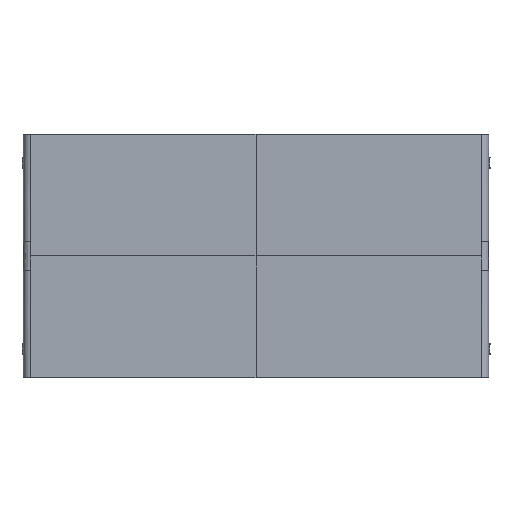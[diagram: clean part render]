
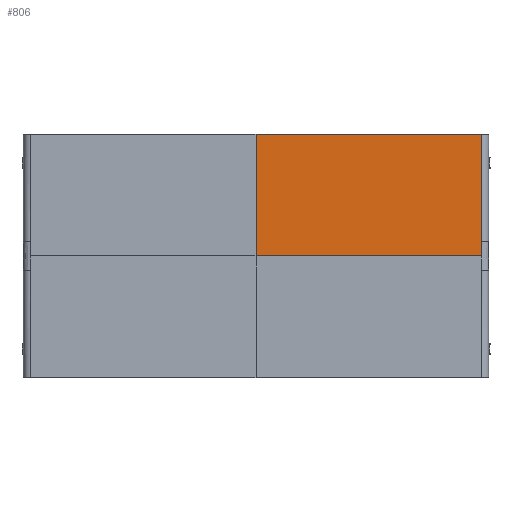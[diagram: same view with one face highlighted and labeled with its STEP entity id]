
A CAD part, top view. The second image highlights one B-rep face of the part: STEP entity #806.
In plain terms, the highlighted planar face has unit normal (0, 0, 1).
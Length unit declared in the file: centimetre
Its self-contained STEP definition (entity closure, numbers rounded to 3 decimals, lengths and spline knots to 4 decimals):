
#105=PLANE($,#4714);
#428=B_SPLINE_CURVE_WITH_KNOTS($,1,(#6860,#6861),.UNSPECIFIED.,.F.,.F.,(2,
2),(575.,1160.),.UNSPECIFIED.);
#438=B_SPLINE_CURVE_WITH_KNOTS($,1,(#6884,#6885),.UNSPECIFIED.,.F.,.F.,(2,
2),(-63.,0.),.UNSPECIFIED.);
#439=B_SPLINE_CURVE_WITH_KNOTS($,1,(#6886,#6887),.UNSPECIFIED.,.F.,.F.,(2,
2),(26.,60.),.UNSPECIFIED.);
#443=B_SPLINE_CURVE_WITH_KNOTS($,1,(#6906,#6907),.UNSPECIFIED.,.F.,.F.,(2,
2),(-8.,-4.),.UNSPECIFIED.);
#462=B_SPLINE_CURVE_WITH_KNOTS($,1,(#6944,#6945),.UNSPECIFIED.,.F.,.F.,(2,
2),(0.,300.),.UNSPECIFIED.);
#806=ADVANCED_FACE($,(#1120),#105,.T.);
#1120=FACE_OUTER_BOUND($,#1434,.T.);
#1434=EDGE_LOOP($,(#2376,#2377,#2378,#2379,#2380));
#2376=ORIENTED_EDGE($,*,*,#3355,.T.);
#2377=ORIENTED_EDGE($,*,*,#3364,.F.);
#2378=ORIENTED_EDGE($,*,*,#3383,.F.);
#2379=ORIENTED_EDGE($,*,*,#3345,.F.);
#2380=ORIENTED_EDGE($,*,*,#3356,.F.);
#3345=EDGE_CURVE($,#3895,#3890,#428,.T.);
#3355=EDGE_CURVE($,#3904,#3905,#438,.T.);
#3356=EDGE_CURVE($,#3904,#3895,#439,.T.);
#3364=EDGE_CURVE($,#3913,#3905,#443,.T.);
#3383=EDGE_CURVE($,#3890,#3913,#462,.T.);
#3890=VERTEX_POINT($,#7146);
#3895=VERTEX_POINT($,#7151);
#3904=VERTEX_POINT($,#7160);
#3905=VERTEX_POINT($,#7161);
#3913=VERTEX_POINT($,#7169);
#4714=AXIS2_PLACEMENT_3D($,#7050,#4859,$);
#4859=DIRECTION($,(0.,0.,1.));
#6860=CARTESIAN_POINT($,(62.2391,67.1652,31.4));
#6861=CARTESIAN_POINT($,(125.2391,67.1652,31.4));
#6884=CARTESIAN_POINT($,(62.2391,33.1652,31.4));
#6885=CARTESIAN_POINT($,(125.2391,33.1652,31.4));
#6886=CARTESIAN_POINT($,(62.2391,33.1652,31.4));
#6887=CARTESIAN_POINT($,(62.2391,67.1652,31.4));
#6906=CARTESIAN_POINT($,(125.2391,37.1652,31.4));
#6907=CARTESIAN_POINT($,(125.2391,33.1652,31.4));
#6944=CARTESIAN_POINT($,(125.2391,67.1652,31.4));
#6945=CARTESIAN_POINT($,(125.2391,37.1652,31.4));
#7050=CARTESIAN_POINT($,(62.2391,67.1652,31.4));
#7146=CARTESIAN_POINT($,(125.2391,67.1652,31.4));
#7151=CARTESIAN_POINT($,(62.2391,67.1652,31.4));
#7160=CARTESIAN_POINT($,(62.2391,33.1652,31.4));
#7161=CARTESIAN_POINT($,(125.2391,33.1652,31.4));
#7169=CARTESIAN_POINT($,(125.2391,37.1652,31.4));
